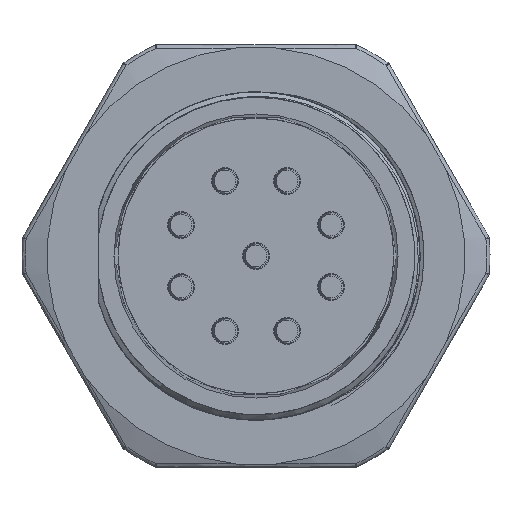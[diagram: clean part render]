
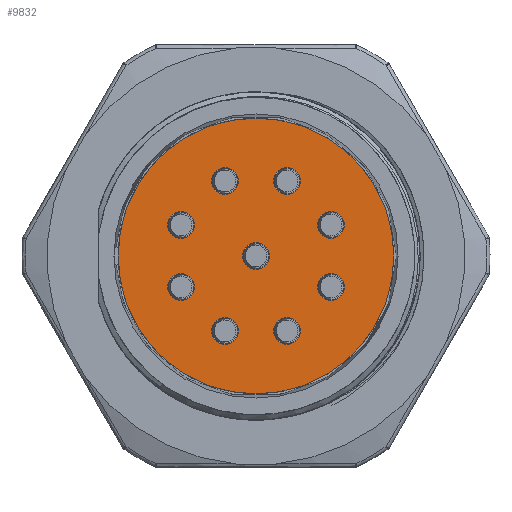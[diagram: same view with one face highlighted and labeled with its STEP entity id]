
A CAD part, left-side view. The second image highlights one B-rep face of the part: STEP entity #9832.
In plain terms, the highlighted planar face has unit normal (-1, 0, 0).
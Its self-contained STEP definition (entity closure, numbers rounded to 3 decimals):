
#879=CARTESIAN_POINT('',(-10.84,0.,0.));
#880=DIRECTION('',(1.,0.,0.));
#881=DIRECTION('',(0.,1.,0.));
#882=AXIS2_PLACEMENT_3D('',#879,#880,#881);
#944=CARTESIAN_POINT('',(-10.84,0.,0.));
#945=DIRECTION('',(-1.,0.,0.));
#946=DIRECTION('',(0.,1.,0.));
#947=AXIS2_PLACEMENT_3D('',#944,#945,#946);
#953=CARTESIAN_POINT('',(-10.84,0.,0.));
#954=DIRECTION('',(1.,0.,0.));
#955=DIRECTION('',(0.,0.,-1.));
#956=AXIS2_PLACEMENT_3D('',#953,#954,#955);
#958=CARTESIAN_POINT('',(-10.84,0.,0.));
#959=DIRECTION('',(1.,0.,0.));
#960=DIRECTION('',(0.,0.,1.));
#961=AXIS2_PLACEMENT_3D('',#958,#959,#960);
#963=CARTESIAN_POINT('',(-10.84,4.483,1.853));
#964=DIRECTION('',(1.,0.,0.));
#965=DIRECTION('',(0.,0.,-1.));
#966=AXIS2_PLACEMENT_3D('',#963,#964,#965);
#968=CARTESIAN_POINT('',(-10.84,4.483,1.853));
#969=DIRECTION('',(1.,0.,0.));
#970=DIRECTION('',(0.,0.,1.));
#971=AXIS2_PLACEMENT_3D('',#968,#969,#970);
#973=CARTESIAN_POINT('',(-10.84,1.86,4.48));
#974=DIRECTION('',(1.,0.,0.));
#975=DIRECTION('',(0.,0.,-1.));
#976=AXIS2_PLACEMENT_3D('',#973,#974,#975);
#978=CARTESIAN_POINT('',(-10.84,1.86,4.48));
#979=DIRECTION('',(1.,0.,0.));
#980=DIRECTION('',(0.,0.,1.));
#981=AXIS2_PLACEMENT_3D('',#978,#979,#980);
#983=CARTESIAN_POINT('',(-10.84,-1.853,4.483));
#984=DIRECTION('',(1.,0.,0.));
#985=DIRECTION('',(0.,0.,-1.));
#986=AXIS2_PLACEMENT_3D('',#983,#984,#985);
#988=CARTESIAN_POINT('',(-10.84,-1.853,4.483));
#989=DIRECTION('',(1.,0.,0.));
#990=DIRECTION('',(0.,0.,1.));
#991=AXIS2_PLACEMENT_3D('',#988,#989,#990);
#993=CARTESIAN_POINT('',(-10.84,-4.48,1.86));
#994=DIRECTION('',(1.,0.,0.));
#995=DIRECTION('',(0.,0.,-1.));
#996=AXIS2_PLACEMENT_3D('',#993,#994,#995);
#998=CARTESIAN_POINT('',(-10.84,-4.48,1.86));
#999=DIRECTION('',(1.,0.,0.));
#1000=DIRECTION('',(0.,0.,1.));
#1001=AXIS2_PLACEMENT_3D('',#998,#999,#1000);
#1003=CARTESIAN_POINT('',(-10.84,-4.483,-1.853));
#1004=DIRECTION('',(1.,0.,0.));
#1005=DIRECTION('',(0.,0.,-1.));
#1006=AXIS2_PLACEMENT_3D('',#1003,#1004,#1005);
#1008=CARTESIAN_POINT('',(-10.84,-4.483,-1.853));
#1009=DIRECTION('',(1.,0.,0.));
#1010=DIRECTION('',(0.,0.,1.));
#1011=AXIS2_PLACEMENT_3D('',#1008,#1009,#1010);
#1013=CARTESIAN_POINT('',(-10.84,-1.86,-4.48));
#1014=DIRECTION('',(1.,0.,0.));
#1015=DIRECTION('',(0.,0.,-1.));
#1016=AXIS2_PLACEMENT_3D('',#1013,#1014,#1015);
#1018=CARTESIAN_POINT('',(-10.84,-1.86,-4.48));
#1019=DIRECTION('',(1.,0.,0.));
#1020=DIRECTION('',(0.,0.,1.));
#1021=AXIS2_PLACEMENT_3D('',#1018,#1019,#1020);
#1023=CARTESIAN_POINT('',(-10.84,1.853,-4.483));
#1024=DIRECTION('',(1.,0.,0.));
#1025=DIRECTION('',(0.,0.,-1.));
#1026=AXIS2_PLACEMENT_3D('',#1023,#1024,#1025);
#1028=CARTESIAN_POINT('',(-10.84,1.853,-4.483));
#1029=DIRECTION('',(1.,0.,0.));
#1030=DIRECTION('',(0.,0.,1.));
#1031=AXIS2_PLACEMENT_3D('',#1028,#1029,#1030);
#1033=CARTESIAN_POINT('',(-10.84,4.48,-1.86));
#1034=DIRECTION('',(1.,0.,0.));
#1035=DIRECTION('',(0.,0.,-1.));
#1036=AXIS2_PLACEMENT_3D('',#1033,#1034,#1035);
#1038=CARTESIAN_POINT('',(-10.84,4.48,-1.86));
#1039=DIRECTION('',(1.,0.,0.));
#1040=DIRECTION('',(0.,0.,1.));
#1041=AXIS2_PLACEMENT_3D('',#1038,#1039,#1040);
#7505=CARTESIAN_POINT('',(-10.84,8.25,0.));
#7506=CARTESIAN_POINT('',(-10.84,-8.25,0.));
#7507=VERTEX_POINT('',#7505);
#7508=VERTEX_POINT('',#7506);
#7609=CARTESIAN_POINT('',(-10.84,0.,-0.8));
#7610=CARTESIAN_POINT('',(-10.84,0.,0.8));
#7611=VERTEX_POINT('',#7609);
#7612=VERTEX_POINT('',#7610);
#7613=CARTESIAN_POINT('',(-10.84,4.483,1.053));
#7614=CARTESIAN_POINT('',(-10.84,4.483,2.653));
#7615=VERTEX_POINT('',#7613);
#7616=VERTEX_POINT('',#7614);
#7617=CARTESIAN_POINT('',(-10.84,1.86,3.68));
#7618=CARTESIAN_POINT('',(-10.84,1.86,5.28));
#7619=VERTEX_POINT('',#7617);
#7620=VERTEX_POINT('',#7618);
#7621=CARTESIAN_POINT('',(-10.84,-1.853,3.683));
#7622=CARTESIAN_POINT('',(-10.84,-1.853,5.283));
#7623=VERTEX_POINT('',#7621);
#7624=VERTEX_POINT('',#7622);
#7625=CARTESIAN_POINT('',(-10.84,-4.48,1.06));
#7626=CARTESIAN_POINT('',(-10.84,-4.48,2.66));
#7627=VERTEX_POINT('',#7625);
#7628=VERTEX_POINT('',#7626);
#7629=CARTESIAN_POINT('',(-10.84,-4.483,-2.653));
#7630=CARTESIAN_POINT('',(-10.84,-4.483,-1.053));
#7631=VERTEX_POINT('',#7629);
#7632=VERTEX_POINT('',#7630);
#7633=CARTESIAN_POINT('',(-10.84,-1.86,-5.28));
#7634=CARTESIAN_POINT('',(-10.84,-1.86,-3.68));
#7635=VERTEX_POINT('',#7633);
#7636=VERTEX_POINT('',#7634);
#7637=CARTESIAN_POINT('',(-10.84,1.853,-5.283));
#7638=CARTESIAN_POINT('',(-10.84,1.853,-3.683));
#7639=VERTEX_POINT('',#7637);
#7640=VERTEX_POINT('',#7638);
#7641=CARTESIAN_POINT('',(-10.84,4.48,-2.66));
#7642=CARTESIAN_POINT('',(-10.84,4.48,-1.06));
#7643=VERTEX_POINT('',#7641);
#7644=VERTEX_POINT('',#7642);
#9769=CARTESIAN_POINT('',(-10.84,0.,0.));
#9770=DIRECTION('',(1.,0.,0.));
#9771=DIRECTION('',(0.,1.,0.));
#9772=AXIS2_PLACEMENT_3D('',#9769,#9770,#9771);
#9773=PLANE('',#9772);
#9774=ORIENTED_EDGE('',*,*,#9763,.F.);
#9775=ORIENTED_EDGE('',*,*,#9686,.T.);
#9776=EDGE_LOOP('',(#9774,#9775));
#9777=FACE_OUTER_BOUND('',#9776,.F.);
#9779=ORIENTED_EDGE('',*,*,#9778,.F.);
#9781=ORIENTED_EDGE('',*,*,#9780,.F.);
#9782=EDGE_LOOP('',(#9779,#9781));
#9783=FACE_BOUND('',#9782,.F.);
#9785=ORIENTED_EDGE('',*,*,#9784,.F.);
#9787=ORIENTED_EDGE('',*,*,#9786,.F.);
#9788=EDGE_LOOP('',(#9785,#9787));
#9789=FACE_BOUND('',#9788,.F.);
#9791=ORIENTED_EDGE('',*,*,#9790,.F.);
#9793=ORIENTED_EDGE('',*,*,#9792,.F.);
#9794=EDGE_LOOP('',(#9791,#9793));
#9795=FACE_BOUND('',#9794,.F.);
#9797=ORIENTED_EDGE('',*,*,#9796,.F.);
#9799=ORIENTED_EDGE('',*,*,#9798,.F.);
#9800=EDGE_LOOP('',(#9797,#9799));
#9801=FACE_BOUND('',#9800,.F.);
#9803=ORIENTED_EDGE('',*,*,#9802,.F.);
#9805=ORIENTED_EDGE('',*,*,#9804,.F.);
#9806=EDGE_LOOP('',(#9803,#9805));
#9807=FACE_BOUND('',#9806,.F.);
#9809=ORIENTED_EDGE('',*,*,#9808,.F.);
#9811=ORIENTED_EDGE('',*,*,#9810,.F.);
#9812=EDGE_LOOP('',(#9809,#9811));
#9813=FACE_BOUND('',#9812,.F.);
#9815=ORIENTED_EDGE('',*,*,#9814,.F.);
#9817=ORIENTED_EDGE('',*,*,#9816,.F.);
#9818=EDGE_LOOP('',(#9815,#9817));
#9819=FACE_BOUND('',#9818,.F.);
#9821=ORIENTED_EDGE('',*,*,#9820,.F.);
#9823=ORIENTED_EDGE('',*,*,#9822,.F.);
#9824=EDGE_LOOP('',(#9821,#9823));
#9825=FACE_BOUND('',#9824,.F.);
#9827=ORIENTED_EDGE('',*,*,#9826,.F.);
#9829=ORIENTED_EDGE('',*,*,#9828,.F.);
#9830=EDGE_LOOP('',(#9827,#9829));
#9831=FACE_BOUND('',#9830,.F.);
#883=CIRCLE('',#882,8.25);
#948=CIRCLE('',#947,8.25);
#957=CIRCLE('',#956,0.8);
#962=CIRCLE('',#961,0.8);
#967=CIRCLE('',#966,0.8);
#972=CIRCLE('',#971,0.8);
#977=CIRCLE('',#976,0.8);
#982=CIRCLE('',#981,0.8);
#987=CIRCLE('',#986,0.8);
#992=CIRCLE('',#991,0.8);
#997=CIRCLE('',#996,0.8);
#1002=CIRCLE('',#1001,0.8);
#1007=CIRCLE('',#1006,0.8);
#1012=CIRCLE('',#1011,0.8);
#1017=CIRCLE('',#1016,0.8);
#1022=CIRCLE('',#1021,0.8);
#1027=CIRCLE('',#1026,0.8);
#1032=CIRCLE('',#1031,0.8);
#1037=CIRCLE('',#1036,0.8);
#1042=CIRCLE('',#1041,0.8);
#9686=EDGE_CURVE('',#7507,#7508,#883,.T.);
#9763=EDGE_CURVE('',#7507,#7508,#948,.T.);
#9778=EDGE_CURVE('',#7611,#7612,#957,.T.);
#9780=EDGE_CURVE('',#7612,#7611,#962,.T.);
#9784=EDGE_CURVE('',#7615,#7616,#967,.T.);
#9786=EDGE_CURVE('',#7616,#7615,#972,.T.);
#9790=EDGE_CURVE('',#7619,#7620,#977,.T.);
#9792=EDGE_CURVE('',#7620,#7619,#982,.T.);
#9796=EDGE_CURVE('',#7623,#7624,#987,.T.);
#9798=EDGE_CURVE('',#7624,#7623,#992,.T.);
#9802=EDGE_CURVE('',#7627,#7628,#997,.T.);
#9804=EDGE_CURVE('',#7628,#7627,#1002,.T.);
#9808=EDGE_CURVE('',#7631,#7632,#1007,.T.);
#9810=EDGE_CURVE('',#7632,#7631,#1012,.T.);
#9814=EDGE_CURVE('',#7635,#7636,#1017,.T.);
#9816=EDGE_CURVE('',#7636,#7635,#1022,.T.);
#9820=EDGE_CURVE('',#7639,#7640,#1027,.T.);
#9822=EDGE_CURVE('',#7640,#7639,#1032,.T.);
#9826=EDGE_CURVE('',#7643,#7644,#1037,.T.);
#9828=EDGE_CURVE('',#7644,#7643,#1042,.T.);
#9832=ADVANCED_FACE('',(#9777,#9783,#9789,#9795,#9801,#9807,#9813,#9819,#9825,
#9831),#9773,.F.);
